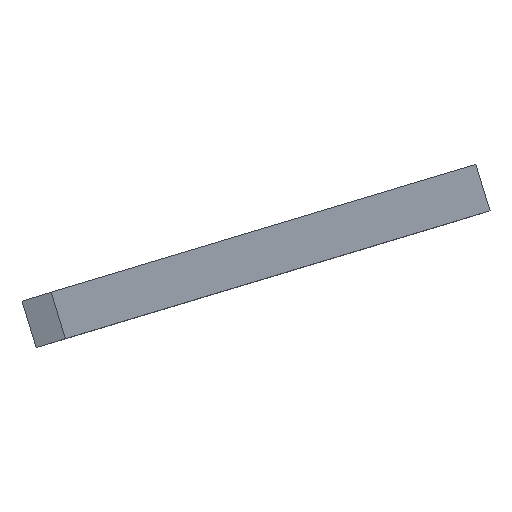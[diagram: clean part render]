
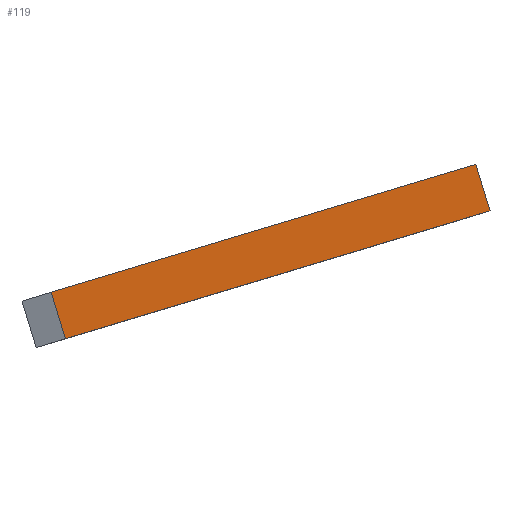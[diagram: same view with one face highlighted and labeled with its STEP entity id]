
A CAD part, top view. The second image highlights one B-rep face of the part: STEP entity #119.
In plain terms, the highlighted planar face has unit normal (0.899, 0.275, 0.342).
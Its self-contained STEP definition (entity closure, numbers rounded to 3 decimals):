
#21 = EDGE_CURVE('',#22,#24,#26,.T.);
#22 = VERTEX_POINT('',#23);
#23 = CARTESIAN_POINT('',(138.372,-86.597,213.42
    ));
#24 = VERTEX_POINT('',#25);
#25 = CARTESIAN_POINT('',(400.032,-6.6,
    -538.334));
#26 = LINE('',#27,#28);
#27 = CARTESIAN_POINT('',(138.372,-86.597,213.42
    ));
#28 = VECTOR('',#29,1.);
#29 = DIRECTION('',(0.327,0.1,-0.94));
#94 = VERTEX_POINT('',#95);
#95 = CARTESIAN_POINT('',(391.261,22.09,
    -538.334));
#101 = EDGE_CURVE('',#102,#94,#104,.T.);
#102 = VERTEX_POINT('',#103);
#103 = CARTESIAN_POINT('',(129.601,-57.908,213.42
    ));
#104 = LINE('',#105,#106);
#105 = CARTESIAN_POINT('',(129.601,-57.908,213.42
    ));
#106 = VECTOR('',#107,1.);
#107 = DIRECTION('',(0.327,0.1,-0.94)
  );
#119 = ADVANCED_FACE('',(#120),#136,.F.);
#120 = FACE_BOUND('',#121,.F.);
#121 = EDGE_LOOP('',(#122,#123,#129,#130));
#122 = ORIENTED_EDGE('',*,*,#101,.T.);
#123 = ORIENTED_EDGE('',*,*,#124,.T.);
#124 = EDGE_CURVE('',#94,#24,#125,.T.);
#125 = LINE('',#126,#127);
#126 = CARTESIAN_POINT('',(391.261,22.09,
    -538.334));
#127 = VECTOR('',#128,1.);
#128 = DIRECTION('',(0.292,-0.956,-0.));
#129 = ORIENTED_EDGE('',*,*,#21,.F.);
#130 = ORIENTED_EDGE('',*,*,#131,.F.);
#131 = EDGE_CURVE('',#102,#22,#132,.T.);
#132 = LINE('',#133,#134);
#133 = CARTESIAN_POINT('',(129.601,-57.908,213.42
    ));
#134 = VECTOR('',#135,1.);
#135 = DIRECTION('',(0.292,-0.956,-0.));
#136 = PLANE('',#137);
#137 = AXIS2_PLACEMENT_3D('',#138,#139,#140);
#138 = CARTESIAN_POINT('',(129.601,-57.908,213.42
    ));
#139 = DIRECTION('',(-0.899,-0.275,-0.342));
#140 = DIRECTION('',(0.292,-0.956,-0.));
